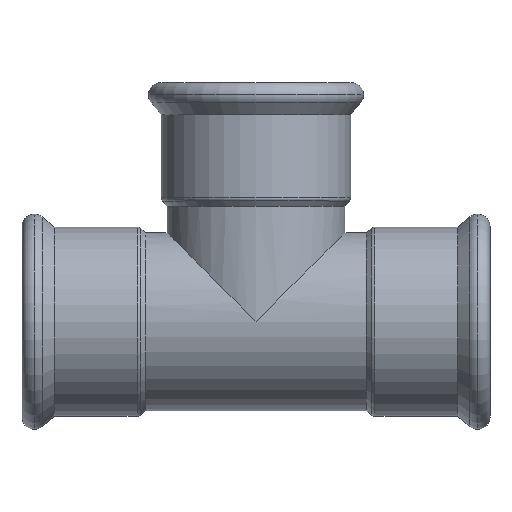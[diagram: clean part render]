
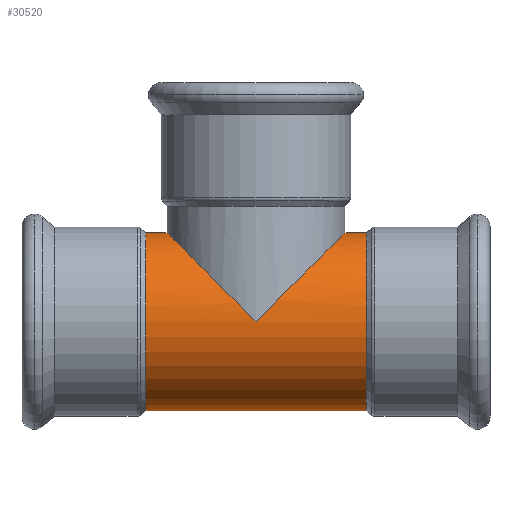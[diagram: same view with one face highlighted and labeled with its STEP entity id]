
A CAD part, top view. The second image highlights one B-rep face of the part: STEP entity #30520.
In plain terms, the highlighted cylindrical face has radius 27 mm (diameter 54 mm), a partial arc.
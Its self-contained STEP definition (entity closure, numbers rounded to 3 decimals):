
#13940=CARTESIAN_POINT('',(3.344,185.695,0.));
#13950=VERTEX_POINT('',#13940);
#14040=CARTESIAN_POINT('',(57.344,185.695,
0.));
#14050=VERTEX_POINT('',#14040);
#14080=CARTESIAN_POINT('',(30.344,158.695,0.));
#14090=DIRECTION('',(-0.707,0.707,0.));
#14100=DIRECTION('',(0.707,0.707,0.));
#14110=AXIS2_PLACEMENT_3D('',#14080,#14090,#14100);
#14120=ELLIPSE('',#14110,38.184,27.);
#14130=CARTESIAN_POINT('',(30.344,158.695,27.));
#14140=VERTEX_POINT('',#14130);
#14150=EDGE_CURVE('',#14140,#14050,#14120,.T.);
#14170=CARTESIAN_POINT('',(30.344,158.695,0.));
#14180=DIRECTION('',(0.707,0.707,0.));
#14190=DIRECTION('',(-0.707,0.707,0.));
#14200=AXIS2_PLACEMENT_3D('',#14170,#14180,#14190);
#14210=ELLIPSE('',#14200,38.184,27.);
#14220=EDGE_CURVE('',#13950,#14140,#14210,.T.);
#14270=CARTESIAN_POINT('',(-3.156,158.695,0.));
#14280=DIRECTION('',(-1.,0.,0.));
#14290=DIRECTION('',(0.,1.,0.));
#14300=AXIS2_PLACEMENT_3D('',#14270,#14280,#14290);
#14310=CYLINDRICAL_SURFACE('',#14300,27.);
#21940=CARTESIAN_POINT('',(-3.156,131.695,0.));
#21950=VERTEX_POINT('',#21940);
#22030=CARTESIAN_POINT('',(-3.156,185.695,
0.));
#22040=VERTEX_POINT('',#22030);
#22070=CARTESIAN_POINT('',(-3.156,158.695,0.));
#22080=DIRECTION('',(-1.,0.,0.));
#22090=DIRECTION('',(0.,-1.,0.));
#22100=AXIS2_PLACEMENT_3D('',#22070,#22080,#22090);
#22110=CIRCLE('',#22100,27.);
#22120=EDGE_CURVE('',#21950,#22040,#22110,.T.);
#30220=CARTESIAN_POINT('',(-3.156,131.695,
0.));
#30230=DIRECTION('',(-1.,0.,0.));
#30240=VECTOR('',#30230,1.);
#30250=LINE('',#30220,#30240);
#30260=CARTESIAN_POINT('',(63.844,131.695,
0.));
#30270=VERTEX_POINT('',#30260);
#30280=EDGE_CURVE('',#30270,#21950,#30250,.T.);
#30290=ORIENTED_EDGE('',*,*,#30280,.F.);
#30300=ORIENTED_EDGE('',*,*,#22120,.F.);
#30310=CARTESIAN_POINT('',(-3.156,185.695,0.));
#30320=DIRECTION('',(-1.,0.,0.));
#30330=VECTOR('',#30320,1.);
#30340=LINE('',#30310,#30330);
#30350=EDGE_CURVE('',#13950,#22040,#30340,.T.);
#30360=ORIENTED_EDGE('',*,*,#30350,.T.);
#30370=ORIENTED_EDGE('',*,*,#14220,.F.);
#30380=ORIENTED_EDGE('',*,*,#14150,.F.);
#30390=CARTESIAN_POINT('',(63.844,185.695,0.));
#30400=VERTEX_POINT('',#30390);
#30410=EDGE_CURVE('',#30400,#14050,#30340,.T.);
#30420=ORIENTED_EDGE('',*,*,#30410,.T.);
#30430=CARTESIAN_POINT('',(63.844,158.695,0.));
#30440=DIRECTION('',(-1.,0.,0.));
#30450=DIRECTION('',(0.,1.,0.));
#30460=AXIS2_PLACEMENT_3D('',#30430,#30440,#30450);
#30470=CIRCLE('',#30460,27.);
#30480=EDGE_CURVE('',#30270,#30400,#30470,.T.);
#30490=ORIENTED_EDGE('',*,*,#30480,.T.);
#30500=EDGE_LOOP('',(#30490,#30420,#30380,#30370,#30360,#30300,#30290));
#30510=FACE_OUTER_BOUND('',#30500,.T.);
#30520=ADVANCED_FACE('',(#30510),#14310,.T.);
